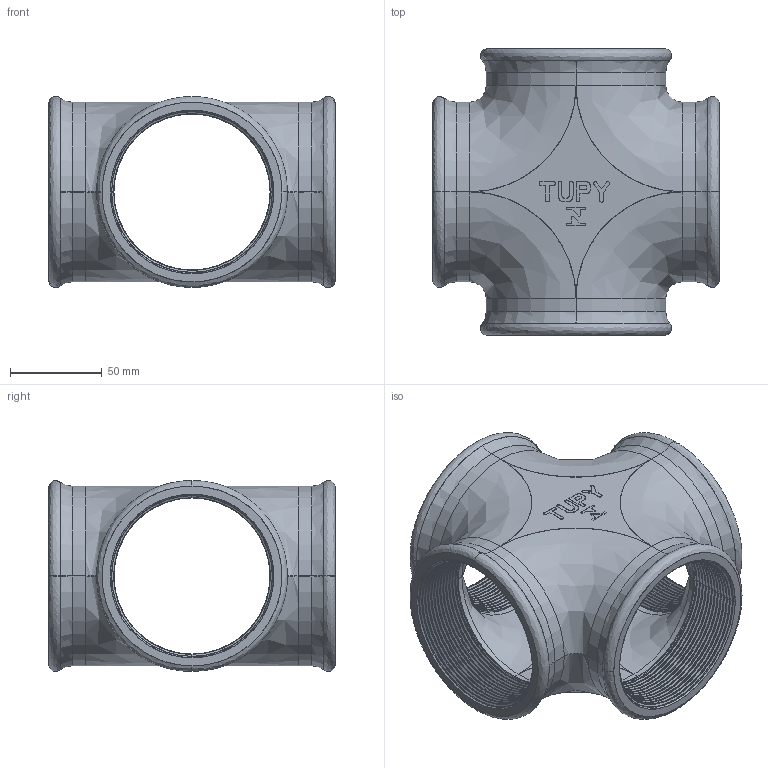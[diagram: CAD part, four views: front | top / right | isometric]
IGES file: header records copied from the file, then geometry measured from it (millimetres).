
Start section: SolidWorks IGES file using analytic representation for surfaces
Global section: file name: C:\Users\Joel Rosa\Desktop\Tubulação\12-18-OK\12-18-012.IGS; native system: SolidWorks 2011; preprocessor: SolidWorks 2011; author: Joel Rosa; date: 121207.003449; units: millimetre
Bounding box: 156 x 156 x 103.9 mm (x, y, z)
Surface area: 142691 mm2 (no closed solid volume)
Topology: 0 solids, 0 shells, 694 faces, 4843 edges, 4843 vertices
Faces by surface type: bspline 444, revolution 250
